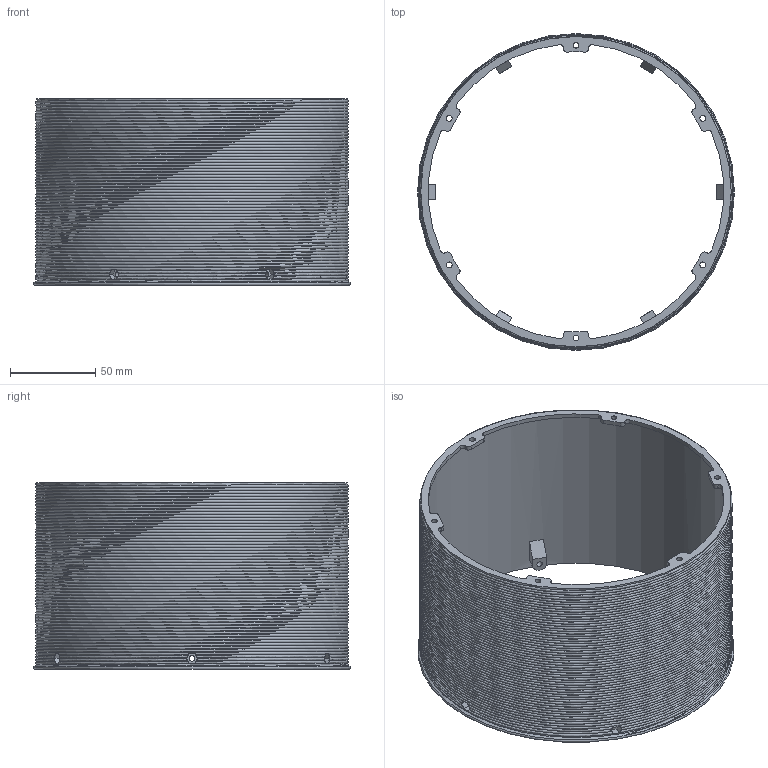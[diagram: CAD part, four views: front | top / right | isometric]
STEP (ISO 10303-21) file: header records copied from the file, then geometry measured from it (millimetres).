
FILE_DESCRIPTION(/* description */ ('Alibre Inc.'),/* implementation_level */ '2;1');
FILE_NAME(/* name */ 'export-B1466D4B-235A-4FC9-A7DA-8BB3BD768841',/* time_stamp */ '2026-02-03T10:30:17+00:00',/* author */ (''),/* organization */ (''),/* preprocessor_version */ 'ST-DEVELOPER v17',/* originating_system */ 'Alibre',/* authorisation */ '');
FILE_SCHEMA (('CONFIG_CONTROL_DESIGN'));
Length unit declared in the file: millimetre
Bounding box: 186.1 x 186.1 x 109.5 mm (x, y, z)
Volume: 112741.3 mm3; surface area: 151069.2 mm2
Topology: 1 solids, 1 shells, 250 faces, 729 edges, 487 vertices
Faces by surface type: cylinder 141, plane 83, bspline 21, revolution 3, cone 1, torus 1
Full cylindrical faces by diameter (mm): 3.3 x6, 3.4 x6, 179.75 x1, 182.35 x57
Entity records: 155909 total; most frequent: CARTESIAN_POINT 151305, ORIENTED_EDGE 1060, DIRECTION 726, EDGE_CURVE 530, VERTEX_POINT 362, AXIS2_PLACEMENT_3D 301, EDGE_LOOP 242, FACE_BOUND 242
